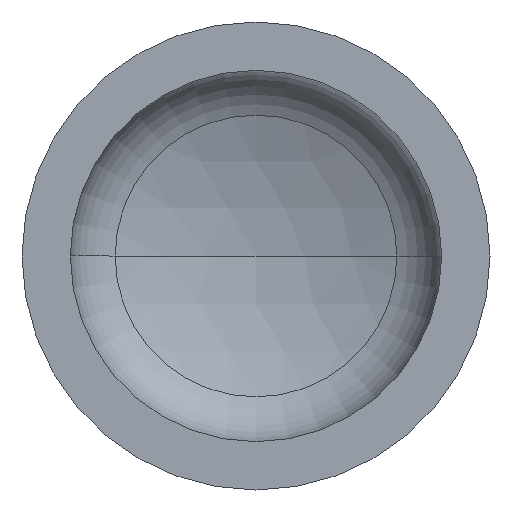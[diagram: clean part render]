
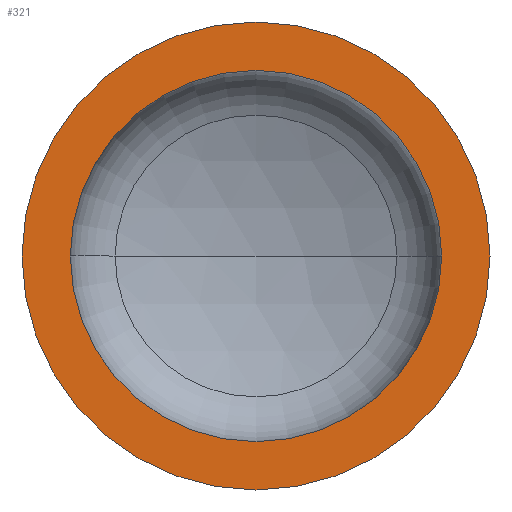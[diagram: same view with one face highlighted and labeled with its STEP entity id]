
A CAD part, front view. The second image highlights one B-rep face of the part: STEP entity #321.
In plain terms, the highlighted planar face has unit normal (0, -1, 0).
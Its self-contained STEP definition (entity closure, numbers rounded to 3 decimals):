
#2 = AXIS2_PLACEMENT_3D ( 'NONE', #326, #22, #280 ) ;
#8 = AXIS2_PLACEMENT_3D ( 'NONE', #263, #44, #284 ) ;
#15 = VERTEX_POINT ( 'NONE', #131 ) ;
#18 = ORIENTED_EDGE ( 'NONE', *, *, #93, .T. ) ;
#22 = DIRECTION ( 'NONE',  ( 0., -1., 0. ) ) ;
#25 = AXIS2_PLACEMENT_3D ( 'NONE', #274, #287, #292 ) ;
#30 = VERTEX_POINT ( 'NONE', #182 ) ;
#44 = DIRECTION ( 'NONE',  ( 0., -1., 0. ) ) ;
#50 = ORIENTED_EDGE ( 'NONE', *, *, #376, .T. ) ;
#56 = VERTEX_POINT ( 'NONE', #84 ) ;
#66 = ORIENTED_EDGE ( 'NONE', *, *, #95, .F. ) ;
#78 = AXIS2_PLACEMENT_3D ( 'NONE', #241, #249, #247 ) ;
#80 = AXIS2_PLACEMENT_3D ( 'NONE', #317, #363, #210 ) ;
#84 = CARTESIAN_POINT ( 'NONE',  ( -300., 0., 0. ) ) ;
#93 = EDGE_CURVE ( 'NONE', #56, #161, #179, .T. ) ;
#95 = EDGE_CURVE ( 'NONE', #15, #30, #157, .T. ) ;
#131 = CARTESIAN_POINT ( 'NONE',  ( 238., 0., 0. ) ) ;
#135 = EDGE_LOOP ( 'NONE', ( #66, #186 ) ) ;
#150 = EDGE_LOOP ( 'NONE', ( #50, #18 ) ) ;
#157 = CIRCLE ( 'NONE', #78, 238. ) ;
#161 = VERTEX_POINT ( 'NONE', #272 ) ;
#179 = CIRCLE ( 'NONE', #80, 300. ) ;
#182 = CARTESIAN_POINT ( 'NONE',  ( -238., 0., 0. ) ) ;
#186 = ORIENTED_EDGE ( 'NONE', *, *, #389, .F. ) ;
#203 = FACE_BOUND ( 'NONE', #135, .T. ) ;
#210 = DIRECTION ( 'NONE',  ( 1., 0., 0. ) ) ;
#241 = CARTESIAN_POINT ( 'NONE',  ( 0., 0., 0. ) ) ;
#247 = DIRECTION ( 'NONE',  ( 1., 0., 0. ) ) ;
#249 = DIRECTION ( 'NONE',  ( 0., -1., 0. ) ) ;
#263 = CARTESIAN_POINT ( 'NONE',  ( 0., 0., 0. ) ) ;
#272 = CARTESIAN_POINT ( 'NONE',  ( 300., 0., 0. ) ) ;
#274 = CARTESIAN_POINT ( 'NONE',  ( -300., 0., 0. ) ) ;
#280 = DIRECTION ( 'NONE',  ( 1., 0., 0. ) ) ;
#284 = DIRECTION ( 'NONE',  ( 1., 0., 0. ) ) ;
#287 = DIRECTION ( 'NONE',  ( 0., 1., 0. ) ) ;
#289 = CIRCLE ( 'NONE', #8, 300. ) ;
#292 = DIRECTION ( 'NONE',  ( -1., 0., 0. ) ) ;
#317 = CARTESIAN_POINT ( 'NONE',  ( 0., 0., 0. ) ) ;
#321 = ADVANCED_FACE ( 'NONE', ( #203, #378 ), #384, .F. ) ;
#326 = CARTESIAN_POINT ( 'NONE',  ( 0., 0., 0. ) ) ;
#342 = CIRCLE ( 'NONE', #2, 238. ) ;
#363 = DIRECTION ( 'NONE',  ( 0., -1., 0. ) ) ;
#376 = EDGE_CURVE ( 'NONE', #161, #56, #289, .T. ) ;
#378 = FACE_OUTER_BOUND ( 'NONE', #150, .T. ) ;
#384 = PLANE ( 'NONE',  #25 ) ;
#389 = EDGE_CURVE ( 'NONE', #30, #15, #342, .T. ) ;
